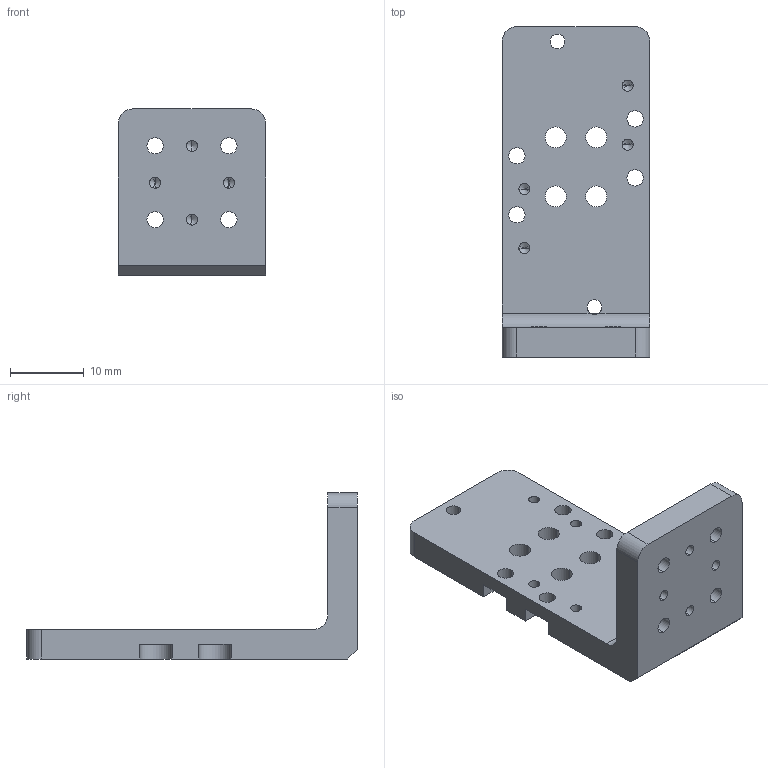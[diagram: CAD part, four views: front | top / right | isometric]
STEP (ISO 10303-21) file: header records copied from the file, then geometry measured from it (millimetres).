
FILE_DESCRIPTION (( 'STEP AP214' ), '1' );
FILE_NAME ('430507 Z-Bracket H45.STEP', '2019-08-27T20:31:52', ( '' ), ( '' ), 'SwSTEP 2.0', 'SolidWorks 2018', '' );
FILE_SCHEMA (( 'AUTOMOTIVE_DESIGN' ));
Length unit declared in the file: millimetre
Products named in the file (1): 430507 Z-Bracket H45
Bounding box: 20 x 44.8 x 22.5 mm (x, y, z)
Volume: 4541.1 mm3; surface area: 3620.9 mm2
Topology: 1 solids, 1 shells, 112 faces, 304 edges, 187 vertices
Faces by surface type: cylinder 67, plane 27, cone 18
Entity records: 3556 total; most frequent: DIRECTION 644, CARTESIAN_POINT 622, ORIENTED_EDGE 572, EDGE_CURVE 286, AXIS2_PLACEMENT_3D 249, VERTEX_POINT 187, EDGE_LOOP 151, LINE 146
